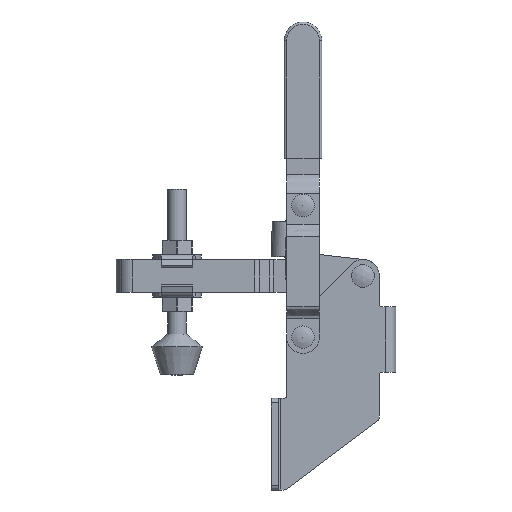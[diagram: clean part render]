
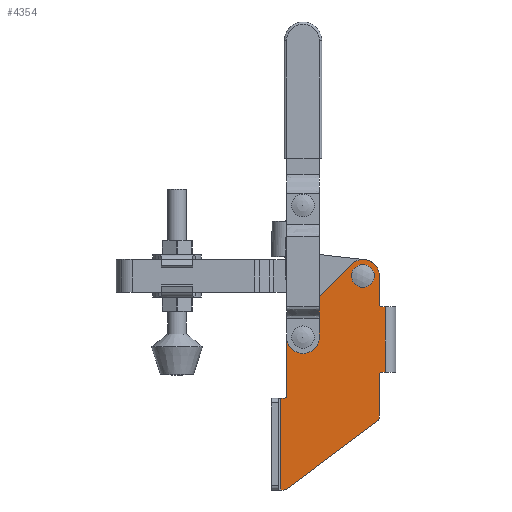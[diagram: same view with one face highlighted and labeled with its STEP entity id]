
A CAD part, front view. The second image highlights one B-rep face of the part: STEP entity #4354.
In plain terms, the highlighted planar face has unit normal (0, -1, 0).
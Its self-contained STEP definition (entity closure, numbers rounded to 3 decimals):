
#172=FACE_BOUND('',#650,.T.);
#173=FACE_BOUND('',#651,.T.);
#254=PLANE('',#4669);
#378=FACE_OUTER_BOUND('',#649,.T.);
#649=EDGE_LOOP('',(#3115,#3116,#3117,#3118,#3119,#3120,#3121,#3122,#3123,
#3124,#3125,#3126,#3127,#3128,#3129,#3130,#3131,#3132));
#650=EDGE_LOOP('',(#3133));
#651=EDGE_LOOP('',(#3134));
#970=LINE('',#6520,#1324);
#992=LINE('',#6597,#1346);
#995=LINE('',#6606,#1349);
#1005=LINE('',#6641,#1359);
#1014=LINE('',#6661,#1368);
#1015=LINE('',#6664,#1369);
#1018=LINE('',#6684,#1372);
#1020=LINE('',#6690,#1374);
#1021=LINE('',#6693,#1375);
#1022=LINE('',#6695,#1376);
#1023=LINE('',#6699,#1377);
#1324=VECTOR('',#5147,1.5);
#1346=VECTOR('',#5215,12.);
#1349=VECTOR('',#5224,1.5);
#1359=VECTOR('',#5256,1.5);
#1368=VECTOR('',#5283,28.);
#1369=VECTOR('',#5286,17.5);
#1372=VECTOR('',#5309,39.);
#1374=VECTOR('',#5315,36.418);
#1375=VECTOR('',#5318,25.);
#1376=VECTOR('',#5319,1.);
#1377=VECTOR('',#5322,47.5);
#1688=CIRCLE('',#4631,4.9);
#1689=CIRCLE('',#4633,1.);
#1695=CIRCLE('',#4643,1.);
#1705=CIRCLE('',#4666,1.);
#1707=CIRCLE('',#4670,7.);
#1708=CIRCLE('',#4671,7.);
#1709=CIRCLE('',#4672,3.);
#1710=CIRCLE('',#4673,3.);
#1711=CIRCLE('',#4674,2.5);
#1927=VERTEX_POINT('',#6517);
#1928=VERTEX_POINT('',#6519);
#1957=VERTEX_POINT('',#6586);
#1958=VERTEX_POINT('',#6589);
#1959=VERTEX_POINT('',#6591);
#1960=VERTEX_POINT('',#6595);
#1963=VERTEX_POINT('',#6605);
#1969=VERTEX_POINT('',#6620);
#1970=VERTEX_POINT('',#6622);
#1977=VERTEX_POINT('',#6639);
#1980=VERTEX_POINT('',#6663);
#1985=VERTEX_POINT('',#6677);
#1987=VERTEX_POINT('',#6682);
#1988=VERTEX_POINT('',#6687);
#1989=VERTEX_POINT('',#6689);
#1990=VERTEX_POINT('',#6691);
#1991=VERTEX_POINT('',#6694);
#1992=VERTEX_POINT('',#6696);
#1993=VERTEX_POINT('',#6698);
#1994=VERTEX_POINT('',#6701);
#2355=EDGE_CURVE('',#1928,#1927,#970,.T.);
#2387=EDGE_CURVE('',#1957,#1957,#1688,.T.);
#2389=EDGE_CURVE('',#1958,#1959,#1689,.T.);
#2392=EDGE_CURVE('',#1958,#1960,#992,.T.);
#2396=EDGE_CURVE('',#1963,#1959,#995,.T.);
#2405=EDGE_CURVE('',#1969,#1970,#1695,.T.);
#2415=EDGE_CURVE('',#1977,#1969,#1005,.T.);
#2425=EDGE_CURVE('',#1963,#1977,#1014,.T.);
#2426=EDGE_CURVE('',#1980,#1970,#1015,.T.);
#2432=EDGE_CURVE('',#1928,#1985,#1705,.T.);
#2435=EDGE_CURVE('',#1987,#1927,#1018,.T.);
#2437=EDGE_CURVE('',#1960,#1988,#1707,.T.);
#2438=EDGE_CURVE('',#1988,#1989,#1020,.T.);
#2439=EDGE_CURVE('',#1989,#1990,#1708,.T.);
#2440=EDGE_CURVE('',#1990,#1985,#1021,.T.);
#2441=EDGE_CURVE('',#1987,#1991,#1022,.T.);
#2442=EDGE_CURVE('',#1992,#1991,#1709,.T.);
#2443=EDGE_CURVE('',#1992,#1993,#1023,.T.);
#2444=EDGE_CURVE('',#1980,#1993,#1710,.T.);
#2445=EDGE_CURVE('',#1994,#1994,#1711,.T.);
#3115=ORIENTED_EDGE('',*,*,#2425,.F.);
#3116=ORIENTED_EDGE('',*,*,#2396,.T.);
#3117=ORIENTED_EDGE('',*,*,#2389,.F.);
#3118=ORIENTED_EDGE('',*,*,#2392,.T.);
#3119=ORIENTED_EDGE('',*,*,#2437,.T.);
#3120=ORIENTED_EDGE('',*,*,#2438,.T.);
#3121=ORIENTED_EDGE('',*,*,#2439,.T.);
#3122=ORIENTED_EDGE('',*,*,#2440,.T.);
#3123=ORIENTED_EDGE('',*,*,#2432,.F.);
#3124=ORIENTED_EDGE('',*,*,#2355,.T.);
#3125=ORIENTED_EDGE('',*,*,#2435,.F.);
#3126=ORIENTED_EDGE('',*,*,#2441,.T.);
#3127=ORIENTED_EDGE('',*,*,#2442,.F.);
#3128=ORIENTED_EDGE('',*,*,#2443,.T.);
#3129=ORIENTED_EDGE('',*,*,#2444,.F.);
#3130=ORIENTED_EDGE('',*,*,#2426,.T.);
#3131=ORIENTED_EDGE('',*,*,#2405,.F.);
#3132=ORIENTED_EDGE('',*,*,#2415,.F.);
#3133=ORIENTED_EDGE('',*,*,#2387,.T.);
#3134=ORIENTED_EDGE('',*,*,#2445,.T.);
#4354=ADVANCED_FACE('',(#378,#172,#173),#254,.F.);
#4631=AXIS2_PLACEMENT_3D('',#6587,#5204,#5205);
#4633=AXIS2_PLACEMENT_3D('',#6592,#5209,#5210);
#4643=AXIS2_PLACEMENT_3D('',#6623,#5239,#5240);
#4666=AXIS2_PLACEMENT_3D('',#6678,#5302,#5303);
#4669=AXIS2_PLACEMENT_3D('',#6686,#5311,#5312);
#4670=AXIS2_PLACEMENT_3D('',#6688,#5313,#5314);
#4671=AXIS2_PLACEMENT_3D('',#6692,#5316,#5317);
#4672=AXIS2_PLACEMENT_3D('',#6697,#5320,#5321);
#4673=AXIS2_PLACEMENT_3D('',#6700,#5323,#5324);
#4674=AXIS2_PLACEMENT_3D('',#6702,#5325,#5326);
#5147=DIRECTION('',(0.,0.,-1.));
#5204=DIRECTION('center_axis',(0.,1.,0.));
#5205=DIRECTION('ref_axis',(-1.,0.,0.));
#5209=DIRECTION('center_axis',(0.,-1.,0.));
#5210=DIRECTION('ref_axis',(0.707,0.,-0.707));
#5215=DIRECTION('',(-1.,0.,0.));
#5224=DIRECTION('',(0.,0.,-1.));
#5239=DIRECTION('center_axis',(0.,-1.,0.));
#5240=DIRECTION('ref_axis',(-0.707,0.,-0.707));
#5256=DIRECTION('',(0.,0.,-1.));
#5283=DIRECTION('',(1.,0.,0.));
#5286=DIRECTION('',(-1.,0.,0.));
#5302=DIRECTION('center_axis',(0.,-1.,0.));
#5303=DIRECTION('ref_axis',(0.707,0.,0.707));
#5309=DIRECTION('',(-1.,0.,0.));
#5311=DIRECTION('center_axis',(0.,1.,0.));
#5312=DIRECTION('ref_axis',(0.,0.,1.));
#5313=DIRECTION('center_axis',(0.,-1.,0.));
#5314=DIRECTION('ref_axis',(-0.7,0.,-0.714));
#5315=DIRECTION('',(0.714,0.,-0.7));
#5316=DIRECTION('center_axis',(0.,-1.,0.));
#5317=DIRECTION('ref_axis',(0.,0.,-1.));
#5318=DIRECTION('',(1.,0.,0.));
#5319=DIRECTION('',(0.,0.,1.));
#5320=DIRECTION('center_axis',(0.,1.,0.));
#5321=DIRECTION('ref_axis',(0.949,0.,0.316));
#5322=DIRECTION('',(-0.6,0.,0.8));
#5323=DIRECTION('center_axis',(0.,1.,0.));
#5324=DIRECTION('ref_axis',(0.447,0.,0.894));
#5325=DIRECTION('center_axis',(0.,1.,0.));
#5326=DIRECTION('ref_axis',(-1.,0.,0.));
#6517=CARTESIAN_POINT('',(-19.5,-6.,4.));
#6519=CARTESIAN_POINT('',(-19.5,-6.,5.5));
#6520=CARTESIAN_POINT('',(-19.5,-6.,0.));
#6586=CARTESIAN_POINT('',(-76.4,-6.,39.));
#6587=CARTESIAN_POINT('Origin',(-71.5,-6.,39.));
#6589=CARTESIAN_POINT('',(-59.5,-6.,46.));
#6591=CARTESIAN_POINT('',(-58.5,-6.,47.));
#6592=CARTESIAN_POINT('Origin',(-59.5,-6.,47.));
#6595=CARTESIAN_POINT('',(-71.5,-6.,46.));
#6597=CARTESIAN_POINT('',(-71.5,-6.,46.));
#6605=CARTESIAN_POINT('',(-58.5,-6.,48.5));
#6606=CARTESIAN_POINT('',(-58.5,-6.,53.));
#6620=CARTESIAN_POINT('',(-30.5,-6.,47.));
#6622=CARTESIAN_POINT('',(-29.5,-6.,46.));
#6623=CARTESIAN_POINT('Origin',(-29.5,-6.,47.));
#6639=CARTESIAN_POINT('',(-30.5,-6.,48.5));
#6641=CARTESIAN_POINT('',(-30.5,-6.,53.));
#6661=CARTESIAN_POINT('',(-35.892,-6.,48.5));
#6663=CARTESIAN_POINT('',(-12.,-6.,46.));
#6664=CARTESIAN_POINT('',(-71.5,-6.,46.));
#6677=CARTESIAN_POINT('',(-20.5,-6.,6.5));
#6678=CARTESIAN_POINT('Origin',(-20.5,-6.,5.5));
#6682=CARTESIAN_POINT('',(19.5,-6.,4.));
#6684=CARTESIAN_POINT('',(-13.642,-6.,4.));
#6686=CARTESIAN_POINT('Origin',(-27.284,-6.,23.311));
#6687=CARTESIAN_POINT('',(-76.401,-6.,34.002));
#6688=CARTESIAN_POINT('Origin',(-71.5,-6.,39.));
#6689=CARTESIAN_POINT('',(-50.401,-6.,8.502));
#6690=CARTESIAN_POINT('',(-50.401,-6.,8.502));
#6691=CARTESIAN_POINT('',(-45.5,-6.,6.5));
#6692=CARTESIAN_POINT('Origin',(-45.5,-6.,13.5));
#6693=CARTESIAN_POINT('',(-19.5,-6.,6.5));
#6694=CARTESIAN_POINT('',(19.5,-6.,5.));
#6695=CARTESIAN_POINT('',(19.5,-6.,6.));
#6696=CARTESIAN_POINT('',(18.9,-6.,6.8));
#6697=CARTESIAN_POINT('Origin',(16.5,-6.,5.));
#6698=CARTESIAN_POINT('',(-9.6,-6.,44.8));
#6699=CARTESIAN_POINT('',(-10.5,-6.,46.));
#6700=CARTESIAN_POINT('Origin',(-12.,-6.,43.));
#6701=CARTESIAN_POINT('',(-43.,-6.,13.5));
#6702=CARTESIAN_POINT('Origin',(-45.5,-6.,13.5));
